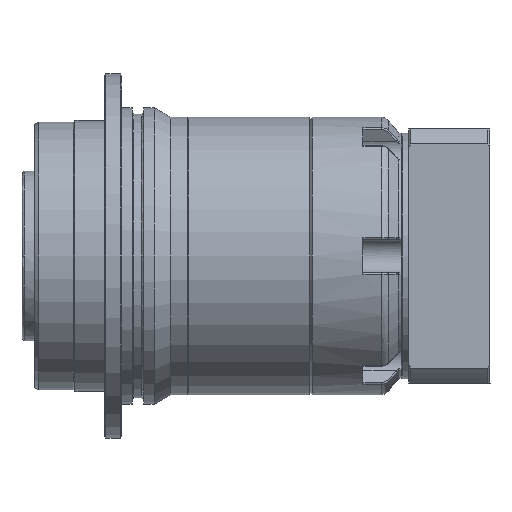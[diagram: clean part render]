
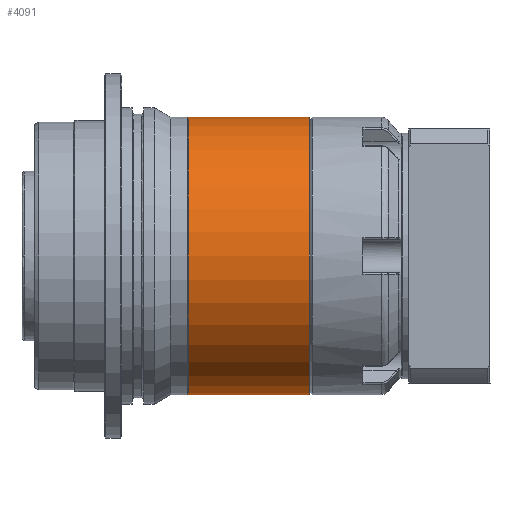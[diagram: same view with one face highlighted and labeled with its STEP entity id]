
A CAD part, front view. The second image highlights one B-rep face of the part: STEP entity #4091.
In plain terms, the highlighted cylindrical face has radius 32.75 mm (diameter 65.5 mm), a partial arc.
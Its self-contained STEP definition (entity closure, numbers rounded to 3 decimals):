
#636 = CYLINDRICAL_SURFACE ( 'NONE', #20764, 32.75 ) ;
#865 = VERTEX_POINT ( 'NONE', #30028 ) ;
#1404 = DIRECTION ( 'NONE',  ( -1., 0., 0. ) ) ;
#1955 = CIRCLE ( 'NONE', #23947, 32.75 ) ;
#3300 = AXIS2_PLACEMENT_3D ( 'NONE', #5849, #22357, #8209 ) ;
#3692 = FACE_OUTER_BOUND ( 'NONE', #10371, .T. ) ;
#4091 = ADVANCED_FACE ( 'NONE', ( #3692 ), #636, .T. ) ;
#4420 = ORIENTED_EDGE ( 'NONE', *, *, #14069, .F. ) ;
#4591 = EDGE_CURVE ( 'NONE', #865, #17814, #28912, .T. ) ;
#5575 = LINE ( 'NONE', #21728, #17420 ) ;
#5849 = CARTESIAN_POINT ( 'NONE',  ( 31.8, 0., 0. ) ) ;
#6616 = VERTEX_POINT ( 'NONE', #25642 ) ;
#8209 = DIRECTION ( 'NONE',  ( 0., 0., 1. ) ) ;
#9513 = VECTOR ( 'NONE', #27837, 1000. ) ;
#10371 = EDGE_LOOP ( 'NONE', ( #16219, #14824, #28052, #4420 ) ) ;
#10786 = DIRECTION ( 'NONE',  ( 0., 0., 1. ) ) ;
#10823 = CARTESIAN_POINT ( 'NONE',  ( 0., 0., 0. ) ) ;
#11962 = CARTESIAN_POINT ( 'NONE',  ( 3.2, 0., -32.75 ) ) ;
#12061 = DIRECTION ( 'NONE',  ( -1., 0., 0. ) ) ;
#12612 = EDGE_CURVE ( 'NONE', #6616, #24958, #5575, .T. ) ;
#14069 = EDGE_CURVE ( 'NONE', #17814, #24958, #1955, .T. ) ;
#14824 = ORIENTED_EDGE ( 'NONE', *, *, #19177, .T. ) ;
#15633 = CARTESIAN_POINT ( 'NONE',  ( 3.2, 0., 0. ) ) ;
#16219 = ORIENTED_EDGE ( 'NONE', *, *, #4591, .F. ) ;
#16258 = CARTESIAN_POINT ( 'NONE',  ( 3.2, 0., 32.75 ) ) ;
#17420 = VECTOR ( 'NONE', #24065, 1000. ) ;
#17814 = VERTEX_POINT ( 'NONE', #11962 ) ;
#18008 = DIRECTION ( 'NONE',  ( 0., 0., -1. ) ) ;
#19177 = EDGE_CURVE ( 'NONE', #865, #6616, #24962, .T. ) ;
#20764 = AXIS2_PLACEMENT_3D ( 'NONE', #10823, #12061, #10786 ) ;
#21728 = CARTESIAN_POINT ( 'NONE',  ( 0., 0., 32.75 ) ) ;
#22357 = DIRECTION ( 'NONE',  ( -1., 0., 0. ) ) ;
#23947 = AXIS2_PLACEMENT_3D ( 'NONE', #15633, #1404, #18008 ) ;
#24065 = DIRECTION ( 'NONE',  ( -1., 0., 0. ) ) ;
#24958 = VERTEX_POINT ( 'NONE', #16258 ) ;
#24962 = CIRCLE ( 'NONE', #3300, 32.75 ) ;
#25642 = CARTESIAN_POINT ( 'NONE',  ( 31.8, 0., 32.75 ) ) ;
#27837 = DIRECTION ( 'NONE',  ( -1., 0., 0. ) ) ;
#28052 = ORIENTED_EDGE ( 'NONE', *, *, #12612, .T. ) ;
#28308 = CARTESIAN_POINT ( 'NONE',  ( 0., 0., -32.75 ) ) ;
#28912 = LINE ( 'NONE', #28308, #9513 ) ;
#30028 = CARTESIAN_POINT ( 'NONE',  ( 31.8, 0., -32.75 ) ) ;
